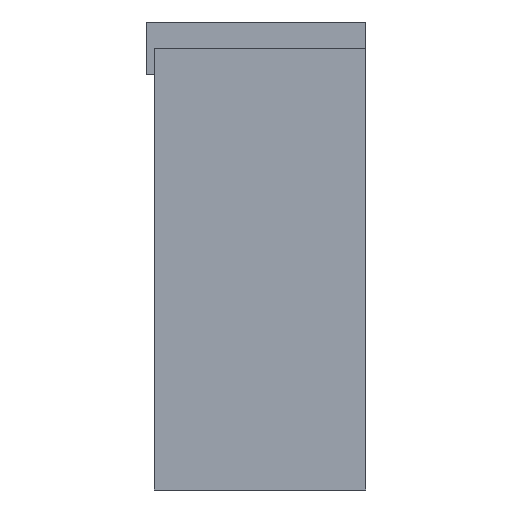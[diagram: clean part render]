
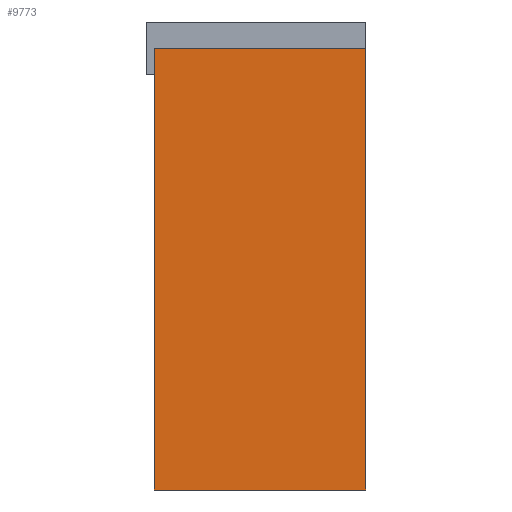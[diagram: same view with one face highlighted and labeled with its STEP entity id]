
A CAD part, left-side view. The second image highlights one B-rep face of the part: STEP entity #9773.
In plain terms, the highlighted planar face has unit normal (-1, 0, 0).
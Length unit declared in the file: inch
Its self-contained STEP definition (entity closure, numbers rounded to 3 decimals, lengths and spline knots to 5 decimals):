
#1241=FACE_OUTER_BOUND('',#1825,.T.);
#1825=EDGE_LOOP('',(#6861,#6862,#6863,#6864));
#2444=LINE('',#14172,#3604);
#2449=LINE('',#14181,#3609);
#2450=LINE('',#14184,#3610);
#2454=LINE('',#14190,#3614);
#3604=VECTOR('',#11556,0.3937);
#3609=VECTOR('',#11563,0.3937);
#3610=VECTOR('',#11566,0.3937);
#3614=VECTOR('',#11572,0.3937);
#4754=VERTEX_POINT('',#14169);
#4755=VERTEX_POINT('',#14171);
#4758=VERTEX_POINT('',#14179);
#4759=VERTEX_POINT('',#14183);
#5582=EDGE_CURVE('',#4755,#4754,#2444,.T.);
#5587=EDGE_CURVE('',#4754,#4758,#2449,.T.);
#5588=EDGE_CURVE('',#4759,#4755,#2450,.T.);
#5592=EDGE_CURVE('',#4758,#4759,#2454,.T.);
#6861=ORIENTED_EDGE('',*,*,#5582,.T.);
#6862=ORIENTED_EDGE('',*,*,#5587,.T.);
#6863=ORIENTED_EDGE('',*,*,#5592,.T.);
#6864=ORIENTED_EDGE('',*,*,#5588,.T.);
#9225=PLANE('',#10770);
#9773=ADVANCED_FACE('',(#1241),#9225,.T.);
#10770=AXIS2_PLACEMENT_3D('',#14191,#11573,#11574);
#11556=DIRECTION('',(0.,-1.,0.));
#11563=DIRECTION('',(0.,0.,1.));
#11566=DIRECTION('',(0.,0.,-1.));
#11572=DIRECTION('',(0.,1.,0.));
#11573=DIRECTION('center_axis',(-1.,0.,0.));
#11574=DIRECTION('ref_axis',(0.,0.,1.));
#14169=CARTESIAN_POINT('',(-82.5,0.,-84.75));
#14171=CARTESIAN_POINT('',(-82.5,40.5,-84.75));
#14172=CARTESIAN_POINT('',(-82.5,40.5,-84.75));
#14179=CARTESIAN_POINT('',(-82.5,0.,0.));
#14181=CARTESIAN_POINT('',(-82.5,0.,-84.75));
#14183=CARTESIAN_POINT('',(-82.5,40.5,0.));
#14184=CARTESIAN_POINT('',(-82.5,40.5,0.));
#14190=CARTESIAN_POINT('',(-82.5,0.,0.));
#14191=CARTESIAN_POINT('Origin',(-82.5,20.25,-42.375));
